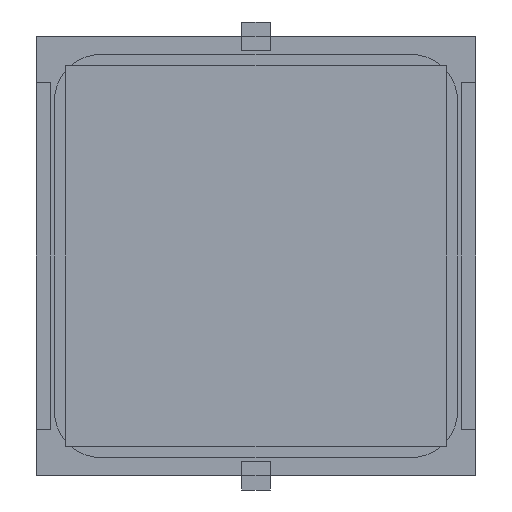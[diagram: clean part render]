
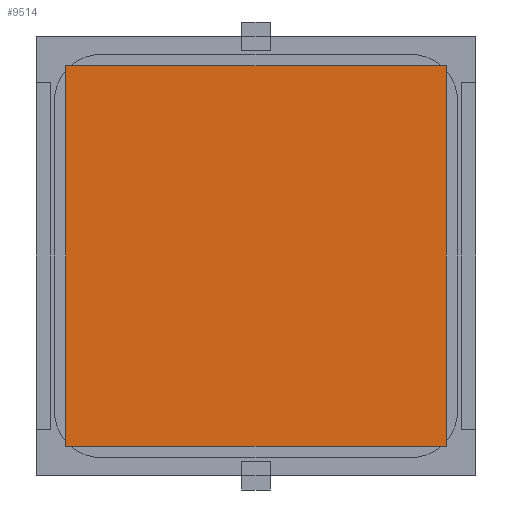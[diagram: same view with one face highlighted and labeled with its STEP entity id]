
A CAD part, front view. The second image highlights one B-rep face of the part: STEP entity #9514.
In plain terms, the highlighted planar face has unit normal (0, -1, 0).
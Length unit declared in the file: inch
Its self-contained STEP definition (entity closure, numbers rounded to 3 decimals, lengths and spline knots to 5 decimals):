
#68 = DIRECTION ( 'NONE',  ( 0., 0., 1. ) ) ;
#183 = CARTESIAN_POINT ( 'NONE',  ( -0.5315, -0.005, 0.5315 ) ) ;
#340 = LINE ( 'NONE', #9261, #1657 ) ;
#389 = ORIENTED_EDGE ( 'NONE', *, *, #1192, .F. ) ;
#661 = FACE_OUTER_BOUND ( 'NONE', #7423, .T. ) ;
#674 = CARTESIAN_POINT ( 'NONE',  ( 0.5315, -0.005, -0.5315 ) ) ;
#990 = CARTESIAN_POINT ( 'NONE',  ( 0.5315, -0.005, 0.5315 ) ) ;
#1192 = EDGE_CURVE ( 'NONE', #11234, #3884, #10496, .T. ) ;
#1657 = VECTOR ( 'NONE', #2099, 39.37008 ) ;
#2099 = DIRECTION ( 'NONE',  ( -1., 0., 0. ) ) ;
#2670 = LINE ( 'NONE', #6225, #11410 ) ;
#3884 = VERTEX_POINT ( 'NONE', #4052 ) ;
#4001 = PLANE ( 'NONE',  #6617 ) ;
#4052 = CARTESIAN_POINT ( 'NONE',  ( 0.5315, -0.005, -0.5315 ) ) ;
#4235 = ORIENTED_EDGE ( 'NONE', *, *, #6613, .F. ) ;
#5271 = CARTESIAN_POINT ( 'NONE',  ( -0.5315, -0.005, -0.5315 ) ) ;
#5302 = DIRECTION ( 'NONE',  ( 1., 0., 0. ) ) ;
#5368 = DIRECTION ( 'NONE',  ( 0., 1., 0. ) ) ;
#5421 = LINE ( 'NONE', #183, #10113 ) ;
#5867 = ORIENTED_EDGE ( 'NONE', *, *, #7651, .F. ) ;
#6225 = CARTESIAN_POINT ( 'NONE',  ( -0.5315, -0.005, -0.5315 ) ) ;
#6515 = VERTEX_POINT ( 'NONE', #5271 ) ;
#6613 = EDGE_CURVE ( 'NONE', #3884, #6515, #340, .T. ) ;
#6617 = AXIS2_PLACEMENT_3D ( 'NONE', #11551, #5368, #68 ) ;
#6967 = VECTOR ( 'NONE', #10323, 39.37008 ) ;
#7423 = EDGE_LOOP ( 'NONE', ( #5867, #4235, #389, #11448 ) ) ;
#7651 = EDGE_CURVE ( 'NONE', #6515, #9837, #2670, .T. ) ;
#7867 = EDGE_CURVE ( 'NONE', #9837, #11234, #5421, .T. ) ;
#8229 = CARTESIAN_POINT ( 'NONE',  ( -0.5315, -0.005, 0.5315 ) ) ;
#9261 = CARTESIAN_POINT ( 'NONE',  ( -0.5315, -0.005, -0.5315 ) ) ;
#9514 = ADVANCED_FACE ( 'NONE', ( #661 ), #4001, .F. ) ;
#9771 = DIRECTION ( 'NONE',  ( 0., 0., 1. ) ) ;
#9837 = VERTEX_POINT ( 'NONE', #8229 ) ;
#10113 = VECTOR ( 'NONE', #5302, 39.37008 ) ;
#10323 = DIRECTION ( 'NONE',  ( 0., 0., -1. ) ) ;
#10496 = LINE ( 'NONE', #674, #6967 ) ;
#11234 = VERTEX_POINT ( 'NONE', #990 ) ;
#11410 = VECTOR ( 'NONE', #9771, 39.37008 ) ;
#11448 = ORIENTED_EDGE ( 'NONE', *, *, #7867, .F. ) ;
#11551 = CARTESIAN_POINT ( 'NONE',  ( -0.5315, -0.005, 0.5315 ) ) ;
